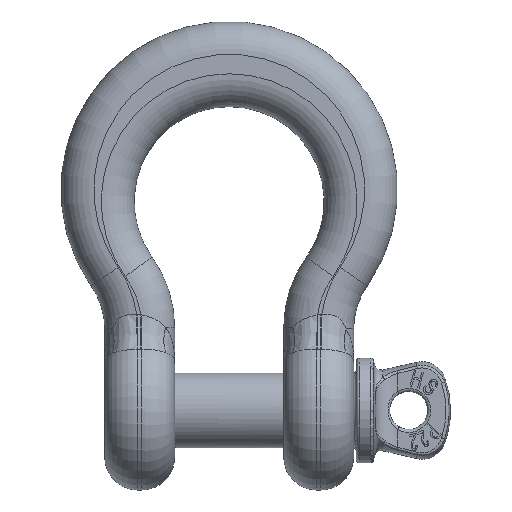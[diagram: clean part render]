
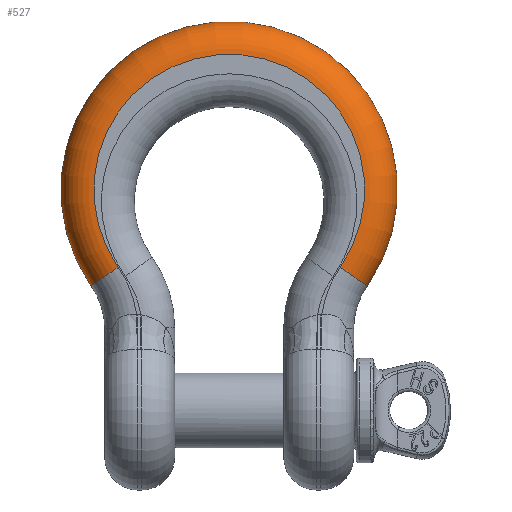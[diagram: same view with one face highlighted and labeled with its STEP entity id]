
A CAD part, top view. The second image highlights one B-rep face of the part: STEP entity #527.
In plain terms, the highlighted toroidal (fillet/blend) face has major radius 90.5 mm and minor radius 22 mm.
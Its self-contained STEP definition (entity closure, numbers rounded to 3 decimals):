
#456=TOROIDAL_SURFACE('',#10244,90.5,22.);
#527=ADVANCED_FACE('',(#1314),#456,.T.);
#1314=FACE_OUTER_BOUND('',#1847,.T.);
#1847=EDGE_LOOP('',(#4960,#4961,#4962,#4963));
#4960=ORIENTED_EDGE('',*,*,#8806,.F.);
#4961=ORIENTED_EDGE('',*,*,#8731,.F.);
#4962=ORIENTED_EDGE('',*,*,#8812,.T.);
#4963=ORIENTED_EDGE('',*,*,#8716,.F.);
#7708=VERTEX_POINT('',#14385);
#7709=VERTEX_POINT('',#14387);
#7719=VERTEX_POINT('',#14414);
#7720=VERTEX_POINT('',#14418);
#8716=EDGE_CURVE('',#7708,#7709,#9922,.T.);
#8731=EDGE_CURVE('',#7720,#7719,#9930,.T.);
#8806=EDGE_CURVE('',#7719,#7708,#9956,.T.);
#8812=EDGE_CURVE('',#7720,#7709,#9957,.T.);
#9922=CIRCLE('',#10178,90.5);
#9930=CIRCLE('',#10189,112.5);
#9956=CIRCLE('',#10240,22.);
#9957=CIRCLE('',#10243,22.);
#10178=AXIS2_PLACEMENT_3D('',#14386,#10909,#10910);
#10189=AXIS2_PLACEMENT_3D('',#14419,#10937,#10938);
#10240=AXIS2_PLACEMENT_3D('',#14726,#11054,#11055);
#10243=AXIS2_PLACEMENT_3D('',#14822,#11060,#11061);
#10244=AXIS2_PLACEMENT_3D('',#14823,#11062,#11063);
#10909=DIRECTION('',(0.,0.,1.));
#10910=DIRECTION('',(-1.,0.,0.));
#10937=DIRECTION('',(0.,0.,-1.));
#10938=DIRECTION('',(-1.,0.,0.));
#11054=DIRECTION('',(-0.573,-0.82,0.));
#11055=DIRECTION('',(-0.82,0.573,0.));
#11060=DIRECTION('',(-0.573,0.82,0.));
#11061=DIRECTION('',(0.82,0.573,0.));
#11062=DIRECTION('',(0.,0.,-1.));
#11063=DIRECTION('',(-1.,0.,0.));
#14385=CARTESIAN_POINT('',(74.182,-51.839,23.35));
#14386=CARTESIAN_POINT('',(0.,0.,23.35));
#14387=CARTESIAN_POINT('',(-74.182,-51.839,23.35));
#14414=CARTESIAN_POINT('',(92.215,-64.44,1.35));
#14418=CARTESIAN_POINT('',(-92.215,-64.44,1.35));
#14419=CARTESIAN_POINT('',(0.,0.,1.35));
#14726=CARTESIAN_POINT('',(74.182,-51.839,1.35));
#14822=CARTESIAN_POINT('',(-74.182,-51.839,1.35));
#14823=CARTESIAN_POINT('',(0.,0.,1.35));
